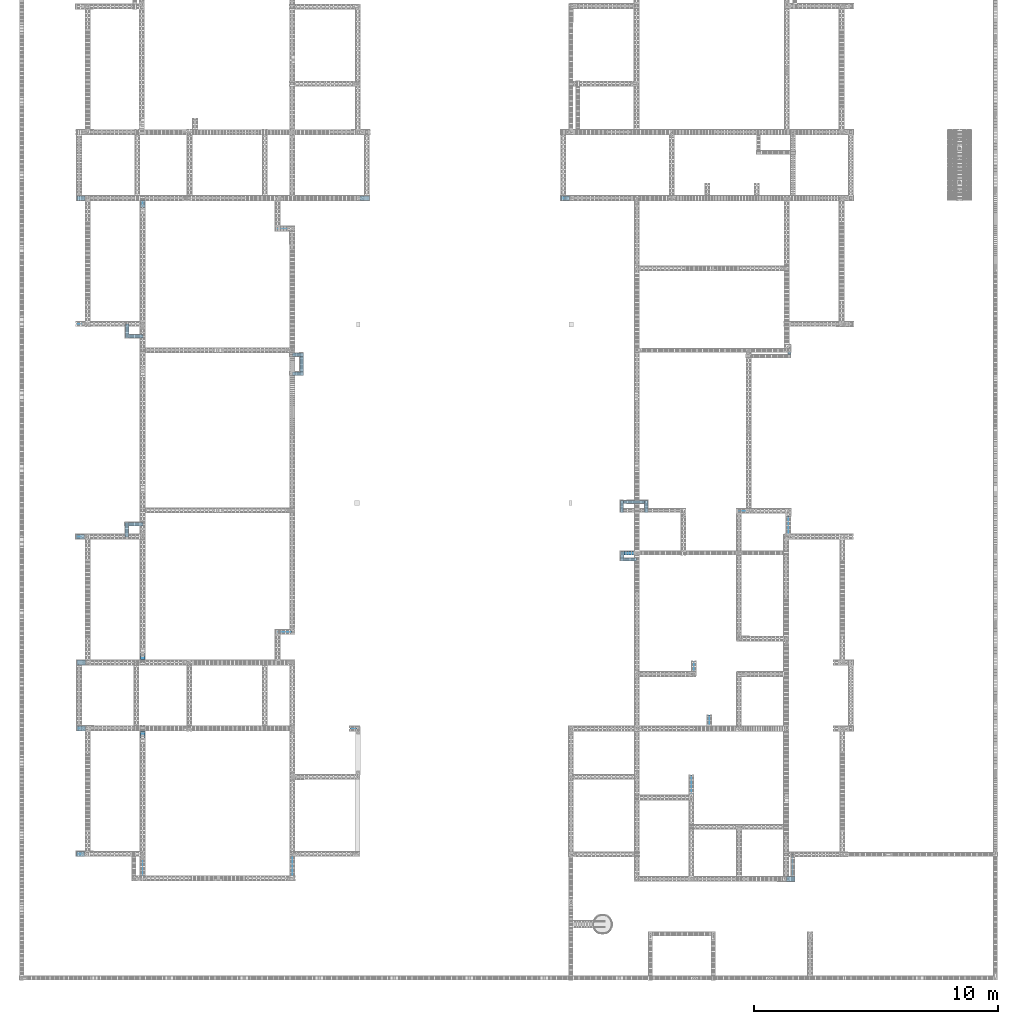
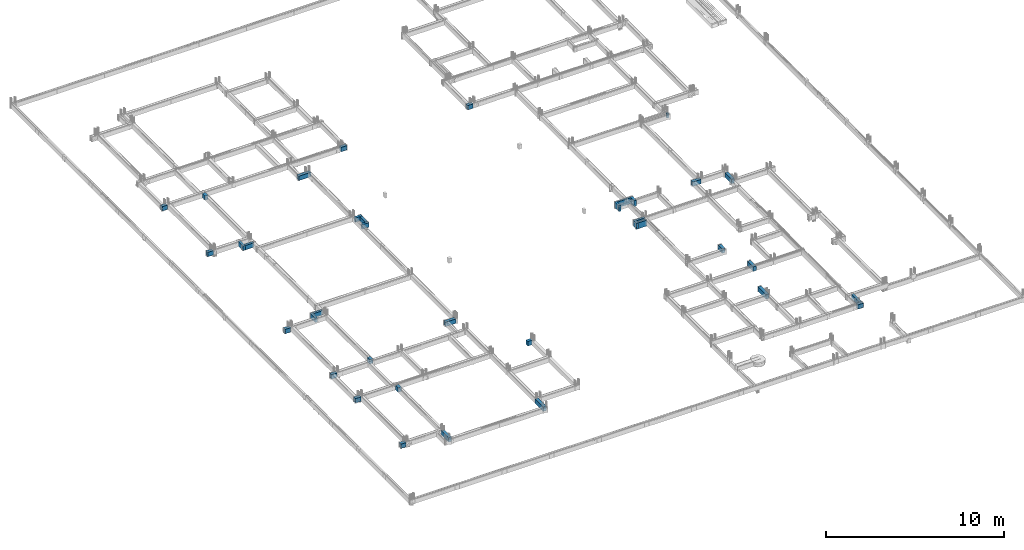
# One storey, part 5 of 150: 37 beams.
"""IFC4 building model written with IfcOpenShell, lengths in centimetres."""

from ifc_helpers import new_model, si_unit, derived_unit, frame, origin_with_axes, origin_2d_with_axis, place, context, project, spatial, rectangle, extrude, material, element, save


model = new_model("IFC4")

# Units and contexts
model_context = context("Model", 3, precision=1e-05, world=origin_with_axes(), identifier="Body")
ifc_project = project(units=[si_unit("LENGTHUNIT", "METRE", prefix="CENTI"), si_unit("VOLUMEUNIT", "CUBIC_METRE"), si_unit("AREAUNIT", "SQUARE_METRE"), si_unit("POWERUNIT", "WATT"), si_unit("LUMINOUSFLUXUNIT", "LUMEN"), si_unit("ELECTRICCURRENTUNIT", "AMPERE"), si_unit("PRESSUREUNIT", "PASCAL", prefix="KILO"), si_unit("MASSUNIT", "GRAM", prefix="KILO"), si_unit("PLANEANGLEUNIT", "RADIAN"), derived_unit("VOLUMETRICFLOWRATEUNIT", [(si_unit("LENGTHUNIT", "METRE"), 3), (si_unit("TIMEUNIT", "SECOND"), -1)])], contexts=[model_context])

# Site, building, storey
site_placement = place(None, frame((-4000.0, 0.0, 0.0), z_axis=(0.0, 0.0, 1.0), x_axis=(1.0, 0.0, 0.0)))
site = spatial("IfcSite", under=ifc_project, at=site_placement, Name="PADRÃO")
building_placement = place(site_placement, frame((0.0, 0.0, -14.0)))
building = spatial("IfcBuilding", under=site, at=building_placement, Name="CRECHE PRÉ-ESCOLA TIPO 2")
placement = place(building_placement, origin_with_axes())
storey_placement = place(placement, frame((0.0, 0.0, 30.0), z_axis=(0.0, 0.0, 1.0), x_axis=(1.0, 0.0, 0.0)))
storey = spatial("IfcBuildingStorey", under=building, at=storey_placement, Name="VIGA BALDRAME", CompositionType="ELEMENT", Elevation=16.0)

# Beams
ifc_material = material(Name="Concreto")
beam_1_placement = place(storey_placement, frame((1412.14, 3200.02, 0.0), z_axis=(0.0, 0.0, 1.0), x_axis=(1.0, 0.0, 0.0)))
element("IfcBeam", 1, at=beam_1_placement, inside=storey, material=ifc_material, Name="V113", context=model_context, shape_type="SolidModel", body=[
    extrude(rectangle(XDim=20.0, YDim=30.0, at=origin_2d_with_axis()), frame((-18.89, 0.0, -15.0), z_axis=(1.0, 0.0, 0.0), x_axis=(0.0, 1.0, 0.0)), (0.0, 0.0, 1.0), 37.78),
])
beam_2_placement = place(storey_placement, frame((250.37, 3200.02, 0.0), z_axis=(0.0, 0.0, 1.0), x_axis=(1.0, 0.0, 0.0)))
element("IfcBeam", 2, at=beam_2_placement, inside=storey, material=ifc_material, Name="V113", context=model_context, shape_type="SolidModel", body=[
    extrude(rectangle(XDim=20.0, YDim=30.0, at=origin_2d_with_axis()), frame((-16.63, 0.0, -15.0), z_axis=(1.0, 0.0, 0.0), x_axis=(0.0, 1.0, 0.0)), (0.0, 0.0, 1.0), 33.26),
])
beam_3_placement = place(storey_placement, frame((2231.645, 3200.02, 0.0), z_axis=(0.0, 0.0, 1.0), x_axis=(1.0, 0.0, 0.0)))
element("IfcBeam", 3, at=beam_3_placement, inside=storey, material=ifc_material, Name="V114", context=model_context, shape_type="SolidModel", body=[
    extrude(rectangle(XDim=20.0, YDim=30.0, at=origin_2d_with_axis()), frame((-17.115, 0.0, -15.0), z_axis=(1.0, 0.0, 0.0), x_axis=(0.0, 1.0, 0.0)), (0.0, 0.0, 1.0), 34.23),
])
beam_4_placement = place(storey_placement, frame((1085.46, 3075.0, 0.0), z_axis=(0.0, 0.0, 1.0), x_axis=(1.0, 0.0, 0.0)))
element("IfcBeam", 4, at=beam_4_placement, inside=storey, material=ifc_material, Name="V115", context=model_context, shape_type="SolidModel", body=[
    extrude(rectangle(XDim=20.0, YDim=30.0, at=origin_2d_with_axis()), frame((-39.26, 0.0, -15.0), z_axis=(1.0, 0.0, 0.0), x_axis=(0.0, 1.0, 0.0)), (0.0, 0.0, 1.0), 78.52),
])
beam_5_placement = place(storey_placement, frame((249.525, 2685.01, 0.0), z_axis=(0.0, 0.0, 1.0), x_axis=(1.0, 0.0, 0.0)))
element("IfcBeam", 5, at=beam_5_placement, inside=storey, material=ifc_material, Name="V117", context=model_context, shape_type="SolidModel", body=[
    extrude(rectangle(XDim=20.0, YDim=30.0, at=origin_2d_with_axis()), frame((-18.475, 0.0, -15.0), z_axis=(1.0, 0.0, 0.0), x_axis=(0.0, 1.0, 0.0)), (0.0, 0.0, 1.0), 36.95),
])
beam_6_placement = place(storey_placement, frame((475.59, 2635.01, 0.0), z_axis=(0.0, 0.0, 1.0), x_axis=(1.0, 0.0, 0.0)))
element("IfcBeam", 6, at=beam_6_placement, inside=storey, material=ifc_material, Name="V119", context=model_context, shape_type="SolidModel", body=[
    extrude(rectangle(XDim=15.0, YDim=30.0, at=origin_2d_with_axis()), frame((-28.1, 0.0, -15.0), z_axis=(1.0, 0.0, 0.0), x_axis=(0.0, 1.0, 0.0)), (0.0, 0.0, 1.0), 56.2),
])
for number, where, z_axis, x_axis, name in (
    (7, (1138.535, 2559.5, 0.0), (0.0, 0.0, 1.0), (1.0, 0.0, 0.0), "V121"),
    (8, (1138.535, 2482.5, 0.0), (0.0, 0.0, 1.0), (1.0, 0.0, 0.0), "V124"),
):
    element("IfcBeam", number, at=place(storey_placement, frame(where, z_axis=z_axis, x_axis=x_axis)), inside=storey, material=ifc_material, Name=name, context=model_context, shape_type="SolidModel", body=[
        extrude(rectangle(XDim=15.0, YDim=30.0, at=origin_2d_with_axis()), frame((-22.535, 0.0, -15.0), z_axis=(1.0, 0.0, 0.0), x_axis=(0.0, 1.0, 0.0)), (0.0, 0.0, 1.0), 45.07),
    ])
beam_7_placement = place(storey_placement, frame((2513.0, 1957.35, 0.0), z_axis=(0.0, 0.0, 1.0), x_axis=(1.0, 0.0, 0.0)))
element("IfcBeam", 9, at=beam_7_placement, inside=storey, material=ifc_material, Name="V126", context=model_context, shape_type="SolidModel", body=[
    extrude(rectangle(XDim=12.0, YDim=40.0, at=origin_2d_with_axis()), frame((-43.5, 0.0, -20.0), z_axis=(1.0, 0.0, 0.0), x_axis=(0.0, 1.0, 0.0)), (0.0, 0.0, 1.0), 87.0),
])
beam_8_placement = place(storey_placement, frame((2960.37, 1920.02, 0.0), z_axis=(0.0, 0.0, 1.0), x_axis=(1.0, 0.0, 0.0)))
element("IfcBeam", 10, at=beam_8_placement, inside=storey, material=ifc_material, Name="V128", context=model_context, shape_type="SolidModel", body=[
    extrude(rectangle(XDim=20.0, YDim=30.0, at=origin_2d_with_axis()), frame((-27.13, 0.0, -15.0), z_axis=(1.0, 0.0, 0.0), x_axis=(0.0, 1.0, 0.0)), (0.0, 0.0, 1.0), 54.26),
])
beam_9_placement = place(storey_placement, frame((474.835, 1866.5, 0.0), z_axis=(0.0, 0.0, 1.0), x_axis=(1.0, 0.0, 0.0)))
element("IfcBeam", 11, at=beam_9_placement, inside=storey, material=ifc_material, Name="V129", context=model_context, shape_type="SolidModel", body=[
    extrude(rectangle(XDim=15.0, YDim=30.0, at=origin_2d_with_axis()), frame((-28.855, 0.0, -15.0), z_axis=(1.0, 0.0, 0.0), x_axis=(0.0, 1.0, 0.0)), (0.0, 0.0, 1.0), 57.71),
])
beam_10_placement = place(storey_placement, frame((248.545, 1815.0, 0.0), z_axis=(0.0, 0.0, 1.0), x_axis=(1.0, 0.0, 0.0)))
element("IfcBeam", 12, at=beam_10_placement, inside=storey, material=ifc_material, Name="V130", context=model_context, shape_type="SolidModel", body=[
    extrude(rectangle(XDim=20.0, YDim=30.0, at=origin_2d_with_axis()), frame((-17.455, 0.0, -15.0), z_axis=(1.0, 0.0, 0.0), x_axis=(0.0, 1.0, 0.0)), (0.0, 0.0, 1.0), 34.91),
])
beam_11_placement = place(storey_placement, frame((2497.5, 1722.51, 0.0), z_axis=(0.0, 0.0, 1.0), x_axis=(1.0, 0.0, 0.0)))
element("IfcBeam", 13, at=beam_11_placement, inside=storey, material=ifc_material, Name="V132", context=model_context, shape_type="SolidModel", body=[
    extrude(rectangle(XDim=12.0, YDim=40.0, at=origin_2d_with_axis()), frame((-26.0, 0.0, -20.0), z_axis=(1.0, 0.0, 0.0), x_axis=(0.0, 1.0, 0.0)), (0.0, 0.0, 1.0), 52.0),
])
beam_12_placement = place(storey_placement, frame((2498.75, 1747.84, 0.0), z_axis=(0.0, 0.0, 1.0), x_axis=(1.0, 0.0, 0.0)))
element("IfcBeam", 14, at=beam_12_placement, inside=storey, material=ifc_material, Name="V133", context=model_context, shape_type="SolidModel", body=[
    extrude(rectangle(XDim=15.0, YDim=30.0, at=origin_2d_with_axis()), frame((-27.25, 0.0, -15.0), z_axis=(1.0, 0.0, 0.0), x_axis=(0.0, 1.0, 0.0)), (0.0, 0.0, 1.0), 54.5),
])
beam_13_placement = place(storey_placement, frame((1078.86, 1425.0, 0.0), z_axis=(0.0, 0.0, 1.0), x_axis=(1.0, 0.0, 0.0)))
element("IfcBeam", 15, at=beam_13_placement, inside=storey, material=ifc_material, Name="V134", context=model_context, shape_type="SolidModel", body=[
    extrude(rectangle(XDim=20.0, YDim=30.0, at=origin_2d_with_axis()), frame((-32.86, 0.0, -15.0), z_axis=(1.0, 0.0, 0.0), x_axis=(0.0, 1.0, 0.0)), (0.0, 0.0, 1.0), 65.72),
])
for number, where, z_axis, x_axis, name in (
    (16, (251.595, 1300.0, 0.0), (0.0, 0.0, 1.0), (1.0, 0.0, 0.0), "V136"),
    (17, (251.595, 1031.0, 0.0), (0.0, 0.0, 1.0), (1.0, 0.0, 0.0), "V140"),
):
    element("IfcBeam", number, at=place(storey_placement, frame(where, z_axis=z_axis, x_axis=x_axis)), inside=storey, material=ifc_material, Name=name, context=model_context, shape_type="SolidModel", body=[
        extrude(rectangle(XDim=20.0, YDim=30.0, at=origin_2d_with_axis()), frame((-17.905, 0.0, -15.0), z_axis=(1.0, 0.0, 0.0), x_axis=(0.0, 1.0, 0.0)), (0.0, 0.0, 1.0), 35.81),
    ])
beam_14_placement = place(storey_placement, frame((1364.415, 1030.01, 0.0), z_axis=(0.0, 0.0, 1.0), x_axis=(1.0, 0.0, 0.0)))
element("IfcBeam", 18, at=beam_14_placement, inside=storey, material=ifc_material, Name="V141", context=model_context, shape_type="SolidModel", body=[
    extrude(rectangle(XDim=20.0, YDim=30.0, at=origin_2d_with_axis()), frame((-13.425, 0.0, -15.0), z_axis=(1.0, 0.0, 0.0), x_axis=(0.0, 1.0, 0.0)), (0.0, 0.0, 1.0), 26.85),
])
beam_15_placement = place(storey_placement, frame((249.25, 517.5, 0.0), z_axis=(0.0, 0.0, 1.0), x_axis=(1.0, 0.0, 0.0)))
element("IfcBeam", 19, at=beam_15_placement, inside=storey, material=ifc_material, Name="V149", context=model_context, shape_type="SolidModel", body=[
    extrude(rectangle(XDim=20.0, YDim=30.0, at=origin_2d_with_axis()), frame((-16.75, 0.0, -15.0), z_axis=(1.0, 0.0, 0.0), x_axis=(0.0, 1.0, 0.0)), (0.0, 0.0, 1.0), 33.5),
])
beam_16_placement = place(storey_placement, frame((3153.49, 415.01, 0.0), z_axis=(0.0, 0.0, 1.0), x_axis=(1.0, 0.0, 0.0)))
element("IfcBeam", 20, at=beam_16_placement, inside=storey, material=ifc_material, Name="V155", context=model_context, shape_type="SolidModel", body=[
    extrude(rectangle(XDim=20.0, YDim=30.0, at=origin_2d_with_axis()), frame((-17.49, 0.0, -15.0), z_axis=(1.0, 0.0, 0.0), x_axis=(0.0, 1.0, 0.0)), (0.0, 0.0, 1.0), 34.98),
])
beam_17_placement = place(storey_placement, frame((503.57, 1006.255, 0.0), z_axis=(0.0, 0.0, 1.0), x_axis=(1.0, 0.0, 0.0)))
element("IfcBeam", 21, at=beam_17_placement, inside=storey, material=ifc_material, Name="V166", context=model_context, shape_type="SolidModel", body=[
    extrude(rectangle(XDim=20.0, YDim=30.0, at=origin_2d_with_axis()), frame((0.0, -14.745, -15.0), z_axis=(0.0, 1.0, 0.0), x_axis=(-1.0, 0.0, 0.0)), (0.0, 0.0, 1.0), 29.49),
])
beam_18_placement = place(storey_placement, frame((503.57, 468.005, 0.0), z_axis=(0.0, 0.0, 1.0), x_axis=(1.0, 0.0, 0.0)))
element("IfcBeam", 22, at=beam_18_placement, inside=storey, material=ifc_material, Name="V166", context=model_context, shape_type="SolidModel", body=[
    extrude(rectangle(XDim=20.0, YDim=30.0, at=origin_2d_with_axis()), frame((0.0, -40.505, -15.0), z_axis=(0.0, 1.0, 0.0), x_axis=(1.0, 0.0, 0.0)), (0.0, 0.0, 1.0), 81.01),
])
beam_19_placement = place(storey_placement, frame((438.48, 1844.5, 0.0), z_axis=(0.0, 0.0, 1.0), x_axis=(1.0, 0.0, 0.0)))
element("IfcBeam", 23, at=beam_19_placement, inside=storey, material=ifc_material, Name="V169", context=model_context, shape_type="SolidModel", body=[
    extrude(rectangle(XDim=15.0, YDim=30.0, at=origin_2d_with_axis()), frame((0.0, -29.5, -15.0), z_axis=(0.0, 1.0, 0.0), x_axis=(-1.0, 0.0, 0.0)), (0.0, 0.0, 1.0), 59.0),
])
beam_20_placement = place(storey_placement, frame((439.99, 2656.26, 0.0), z_axis=(0.0, 0.0, 1.0), x_axis=(1.0, 0.0, 0.0)))
element("IfcBeam", 24, at=beam_20_placement, inside=storey, material=ifc_material, Name="V170", context=model_context, shape_type="SolidModel", body=[
    extrude(rectangle(XDim=15.0, YDim=30.0, at=origin_2d_with_axis()), frame((0.0, -28.75, -15.0), z_axis=(0.0, 1.0, 0.0), x_axis=(-1.0, 0.0, 0.0)), (0.0, 0.0, 1.0), 57.5),
])
beam_21_placement = place(storey_placement, frame((503.69, 1324.255, 0.0), z_axis=(0.0, 0.0, 1.0), x_axis=(1.0, 0.0, 0.0)))
element("IfcBeam", 25, at=beam_21_placement, inside=storey, material=ifc_material, Name="V171", context=model_context, shape_type="SolidModel", body=[
    extrude(rectangle(XDim=20.0, YDim=30.0, at=origin_2d_with_axis()), frame((0.0, -14.255, -15.0), z_axis=(0.0, 1.0, 0.0), x_axis=(-1.0, 0.0, 0.0)), (0.0, 0.0, 1.0), 28.51),
])
beam_22_placement = place(storey_placement, frame((503.69, 3175.76, 0.0), z_axis=(0.0, 0.0, 1.0), x_axis=(1.0, 0.0, 0.0)))
element("IfcBeam", 26, at=beam_22_placement, inside=storey, material=ifc_material, Name="V171", context=model_context, shape_type="SolidModel", body=[
    extrude(rectangle(XDim=20.0, YDim=30.0, at=origin_2d_with_axis()), frame((0.0, -14.26, -15.0), z_axis=(0.0, 1.0, 0.0), x_axis=(-1.0, 0.0, 0.0)), (0.0, 0.0, 1.0), 28.52),
])
beam_23_placement = place(storey_placement, frame((1116.0, 468.51, 0.0), z_axis=(0.0, 0.0, 1.0), x_axis=(1.0, 0.0, 0.0)))
element("IfcBeam", 27, at=beam_23_placement, inside=storey, material=ifc_material, Name="V182", context=model_context, shape_type="SolidModel", body=[
    extrude(rectangle(XDim=20.0, YDim=30.0, at=origin_2d_with_axis()), frame((0.0, -46.5, -15.0), z_axis=(0.0, 1.0, 0.0), x_axis=(1.0, 0.0, 0.0)), (0.0, 0.0, 1.0), 93.0),
])
beam_24_placement = place(storey_placement, frame((1153.57, 2521.0, 0.0), z_axis=(0.0, 0.0, 1.0), x_axis=(1.0, 0.0, 0.0)))
element("IfcBeam", 28, at=beam_24_placement, inside=storey, material=ifc_material, Name="V184", context=model_context, shape_type="SolidModel", body=[
    extrude(rectangle(XDim=15.0, YDim=30.0, at=origin_2d_with_axis()), frame((0.0, -31.0, -15.0), z_axis=(0.0, 1.0, 0.0), x_axis=(-1.0, 0.0, 0.0)), (0.0, 0.0, 1.0), 62.0),
])
beam_25_placement = place(storey_placement, frame((2464.5, 1735.925, 0.0), z_axis=(0.0, 0.0, 1.0), x_axis=(1.0, 0.0, 0.0)))
element("IfcBeam", 29, at=beam_25_placement, inside=storey, material=ifc_material, Name="V194", context=model_context, shape_type="SolidModel", body=[
    extrude(rectangle(XDim=14.0, YDim=40.0, at=origin_2d_with_axis()), frame((0.0, -19.415, -20.0), z_axis=(0.0, 1.0, 0.0), x_axis=(1.0, 0.0, 0.0)), (0.0, 0.0, 1.0), 38.83),
])
beam_26_placement = place(storey_placement, frame((2463.5, 1939.185, 0.0), z_axis=(0.0, 0.0, 1.0), x_axis=(1.0, 0.0, 0.0)))
element("IfcBeam", 30, at=beam_26_placement, inside=storey, material=ifc_material, Name="V195", context=model_context, shape_type="SolidModel", body=[
    extrude(rectangle(XDim=12.0, YDim=40.0, at=origin_2d_with_axis()), frame((0.0, -24.165, -20.0), z_axis=(0.0, 1.0, 0.0), x_axis=(1.0, 0.0, 0.0)), (0.0, 0.0, 1.0), 48.33),
])
beam_27_placement = place(storey_placement, frame((2563.5, 1939.185, 0.0), z_axis=(0.0, 0.0, 1.0), x_axis=(1.0, 0.0, 0.0)))
element("IfcBeam", 31, at=beam_27_placement, inside=storey, material=ifc_material, Name="V197", context=model_context, shape_type="SolidModel", body=[
    extrude(rectangle(XDim=14.0, YDim=40.0, at=origin_2d_with_axis()), frame((0.0, -24.165, -20.0), z_axis=(0.0, 1.0, 0.0), x_axis=(1.0, 0.0, 0.0)), (0.0, 0.0, 1.0), 48.33),
])
beam_28_placement = place(storey_placement, frame((2748.46, 794.54, 0.0), z_axis=(0.0, 0.0, 1.0), x_axis=(1.0, 0.0, 0.0)))
element("IfcBeam", 32, at=beam_28_placement, inside=storey, material=ifc_material, Name="V203", context=model_context, shape_type="SolidModel", body=[
    extrude(rectangle(XDim=20.0, YDim=30.0, at=origin_2d_with_axis()), frame((0.0, -45.46, -15.0), z_axis=(0.0, 1.0, 0.0), x_axis=(1.0, 0.0, 0.0)), (0.0, 0.0, 1.0), 90.92),
])
beam_29_placement = place(storey_placement, frame((2758.75, 1282.76, 0.0), z_axis=(0.0, 0.0, 1.0), x_axis=(1.0, 0.0, 0.0)))
element("IfcBeam", 33, at=beam_29_placement, inside=storey, material=ifc_material, Name="V204", context=model_context, shape_type="SolidModel", body=[
    extrude(rectangle(XDim=20.0, YDim=30.0, at=origin_2d_with_axis()), frame((0.0, -22.25, -15.0), z_axis=(0.0, 1.0, 0.0), x_axis=(1.0, 0.0, 0.0)), (0.0, 0.0, 1.0), 44.5),
])
beam_30_placement = place(storey_placement, frame((2821.5, 1052.51, 0.0), z_axis=(0.0, 0.0, 1.0), x_axis=(1.0, 0.0, 0.0)))
element("IfcBeam", 34, at=beam_30_placement, inside=storey, material=ifc_material, Name="V207", context=model_context, shape_type="SolidModel", body=[
    extrude(rectangle(XDim=20.0, YDim=30.0, at=origin_2d_with_axis()), frame((0.0, -32.5, -15.0), z_axis=(0.0, 1.0, 0.0), x_axis=(1.0, 0.0, 0.0)), (0.0, 0.0, 1.0), 65.0),
])
beam_31_placement = place(storey_placement, frame((3163.48, 470.01, 0.0), z_axis=(0.0, 0.0, 1.0), x_axis=(1.0, 0.0, 0.0)))
element("IfcBeam", 35, at=beam_31_placement, inside=storey, material=ifc_material, Name="V215", context=model_context, shape_type="SolidModel", body=[
    extrude(rectangle(XDim=15.0, YDim=30.0, at=origin_2d_with_axis()), frame((0.0, -45.0, -15.0), z_axis=(0.0, 1.0, 0.0), x_axis=(1.0, 0.0, 0.0)), (0.0, 0.0, 1.0), 90.0),
])
beam_32_placement = place(storey_placement, frame((3145.02, 1861.02, 0.0), z_axis=(0.0, 0.0, 1.0), x_axis=(1.0, 0.0, 0.0)))
element("IfcBeam", 36, at=beam_32_placement, inside=storey, material=ifc_material, Name="V217", context=model_context, shape_type="SolidModel", body=[
    extrude(rectangle(XDim=20.0, YDim=30.0, at=origin_2d_with_axis()), frame((0.0, -37.5, -15.0), z_axis=(0.0, 1.0, 0.0), x_axis=(1.0, 0.0, 0.0)), (0.0, 0.0, 1.0), 75.0),
])
beam_33_placement = place(storey_placement, frame((3149.02, 2566.02, 0.0), z_axis=(0.0, 0.0, 1.0), x_axis=(1.0, 0.0, 0.0)))
element("IfcBeam", 37, at=beam_33_placement, inside=storey, material=ifc_material, Name="V218", context=model_context, shape_type="SolidModel", body=[
    extrude(rectangle(XDim=12.0, YDim=30.0, at=origin_2d_with_axis()), frame((0.0, -5.5, -15.0), z_axis=(0.0, 1.0, 0.0), x_axis=(1.0, 0.0, 0.0)), (0.0, 0.0, 1.0), 11.0),
])

save(model, "model.ifc")
